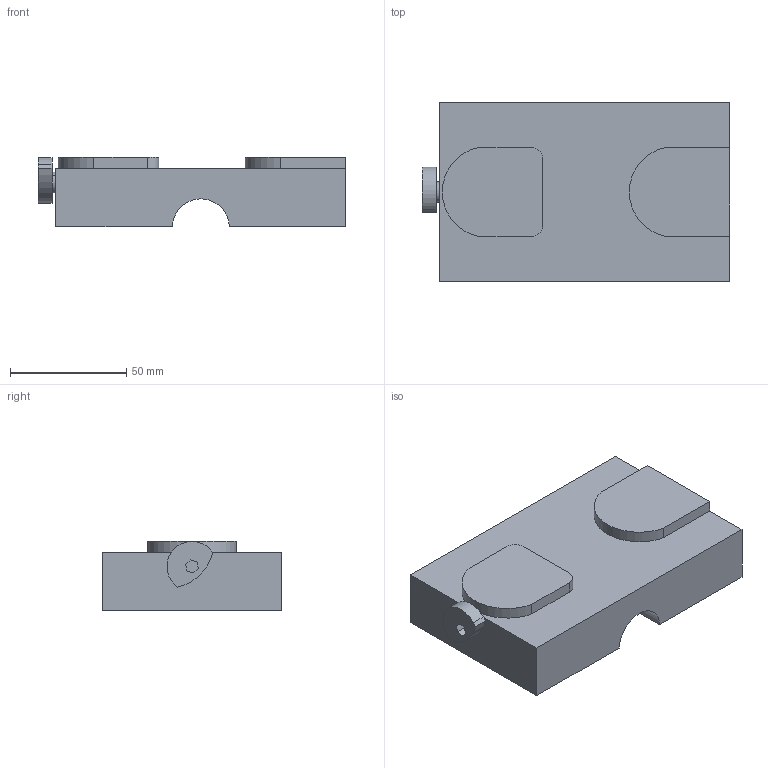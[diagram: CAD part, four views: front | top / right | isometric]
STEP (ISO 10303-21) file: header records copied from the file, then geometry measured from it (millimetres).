
FILE_DESCRIPTION (( 'STEP AP214' ), '1' );
FILE_NAME ('81440-TG.STEP', '2020-10-28T07:24:47', ( '' ), ( '' ), 'SwSTEP 2.0', 'SolidWorks 2019', '' );
FILE_SCHEMA (( 'AUTOMOTIVE_DESIGN' ));
Length unit declared in the file: millimetre
Products named in the file (1): 81440-TG
Bounding box: 132.2 x 77 x 30 mm (x, y, z)
Volume: 240366.9 mm3; surface area: 33200.3 mm2
Topology: 2 solids, 2 shells, 42 faces, 99 edges, 66 vertices
Faces by surface type: plane 26, cylinder 16
Entity records: 1720 total; most frequent: DIRECTION 217, CARTESIAN_POINT 208, ORIENTED_EDGE 198, EDGE_CURVE 99, AXIS2_PLACEMENT_3D 75, LINE 67, VECTOR 67, VERTEX_POINT 66
